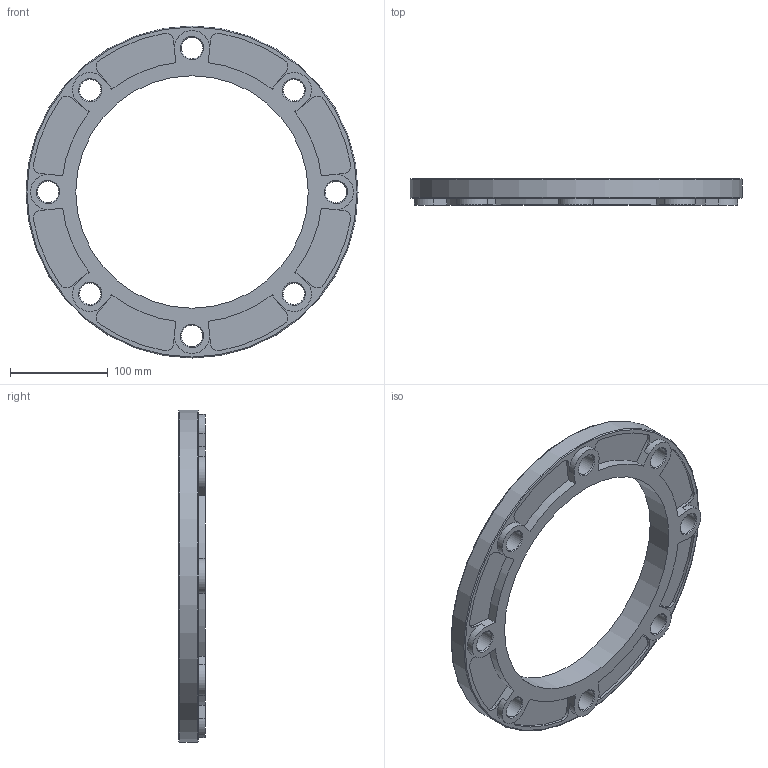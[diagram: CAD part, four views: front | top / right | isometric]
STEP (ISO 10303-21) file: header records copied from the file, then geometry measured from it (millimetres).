
FILE_DESCRIPTION(/* description */ ('Unknown'),/* implementation_level */ '2;1');
FILE_NAME(/* name */ 'FA225B',/* time_stamp */ '2022-07-20T17:19:05+02:00',/* author */ ('Unknown'),/* organization */ ('Unknown'),/* preprocessor_version */ 'ST-DEVELOPER v18.102',/* originating_system */ 'Solid Edge',/* authorisation */ 'Unknown');
FILE_SCHEMA (('AUTOMOTIVE_DESIGN {1 0 10303 214 3 1 1}'));
Length unit declared in the file: millimetre
Products named in the file (1): FA225B
Bounding box: 340 x 27 x 340 mm (x, y, z)
Volume: 919433.3 mm3; surface area: 155552.7 mm2
Topology: 1 solids, 1 shells, 95 faces, 282 edges, 190 vertices
Faces by surface type: cylinder 50, plane 27, cone 16, torus 2
Full cylindrical faces by diameter (mm): 22 x8, 238 x1, 340 x1
Entity records: 2952 total; most frequent: DIRECTION 540, CARTESIAN_POINT 492, ORIENTED_EDGE 460, EDGE_CURVE 230, AXIS2_PLACEMENT_3D 214, VERTEX_POINT 166, EDGE_LOOP 142, FACE_BOUND 142
